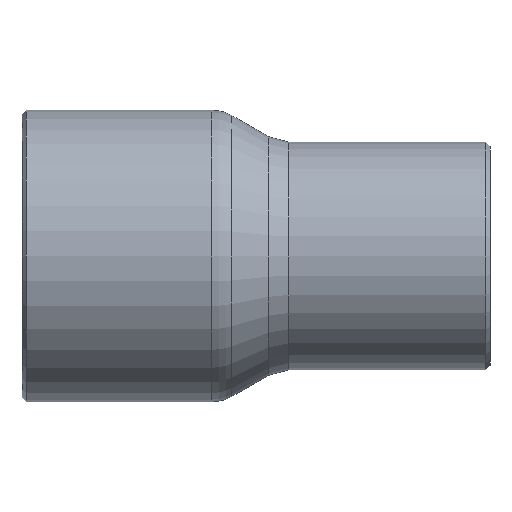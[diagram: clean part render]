
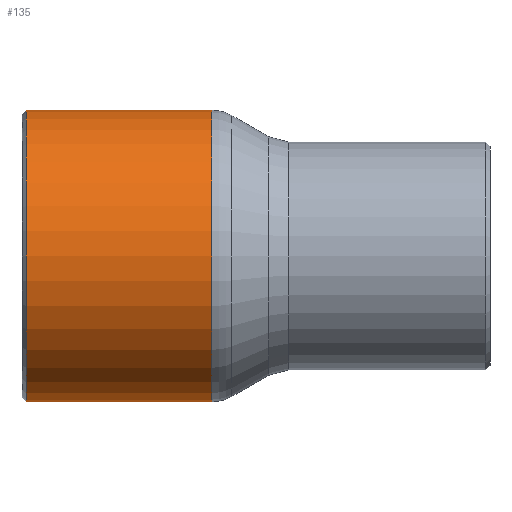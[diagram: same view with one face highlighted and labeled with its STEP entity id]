
A CAD part, front view. The second image highlights one B-rep face of the part: STEP entity #135.
In plain terms, the highlighted cylindrical face has radius 7.26 mm (diameter 14.52 mm), a full revolution.
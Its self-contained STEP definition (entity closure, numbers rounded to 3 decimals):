
#84=CARTESIAN_POINT('',(-14.6,7.26,0.));
#85=VERTEX_POINT('',#84);
#86=CARTESIAN_POINT('',(-14.6,0.0,0.0));
#87=DIRECTION('',(-1.0,0.0,0.0));
#88=DIRECTION('',(0.0,-1.0,0.0));
#89=AXIS2_PLACEMENT_3D('',#86,#87,#88);
#90=CIRCLE('',#89,7.26);
#91=EDGE_CURVE('',#85,#85,#90,.T.);
#116=CARTESIAN_POINT('',(-10.074,0.0,0.0));
#117=DIRECTION('',(1.0,0.0,0.0));
#118=DIRECTION('',(0.0,1.0,0.0));
#119=AXIS2_PLACEMENT_3D('',#116,#117,#118);
#120=CYLINDRICAL_SURFACE('',#119,7.26);
#121=CARTESIAN_POINT('',(-5.347,7.26,0.0));
#122=VERTEX_POINT('',#121);
#123=CARTESIAN_POINT('',(-5.347,0.0,0.0));
#124=DIRECTION('',(1.0,0.0,0.0));
#125=DIRECTION('',(0.0,1.0,0.0));
#126=AXIS2_PLACEMENT_3D('',#123,#124,#125);
#127=CIRCLE('',#126,7.26);
#128=EDGE_CURVE('',#122,#122,#127,.T.);
#129=ORIENTED_EDGE('',*,*,#128,.F.);
#130=EDGE_LOOP('',(#129));
#131=FACE_OUTER_BOUND('',#130,.T.);
#132=ORIENTED_EDGE('',*,*,#91,.F.);
#133=EDGE_LOOP('',(#132));
#134=FACE_BOUND('',#133,.T.);
#135=ADVANCED_FACE('',(#131,#134),#120,.T.);
